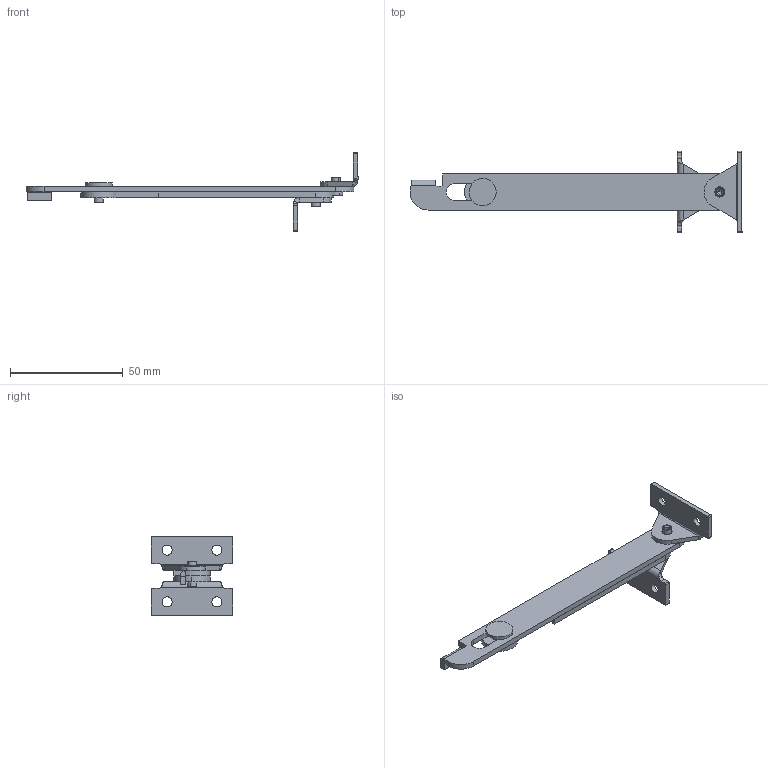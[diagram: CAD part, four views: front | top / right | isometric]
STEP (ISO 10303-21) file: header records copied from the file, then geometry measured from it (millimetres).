
FILE_DESCRIPTION (( 'STEP AP214' ), '1' );
FILE_NAME ('4.401.304.STEP', '2016-09-09T06:53:49', ( '' ), ( '' ), 'SwSTEP 2.0', 'SolidWorks 2015', '' );
FILE_SCHEMA (( 'AUTOMOTIVE_DESIGN' ));
Length unit declared in the file: millimetre
Products named in the file (6): 4.401.301.05_A; 4.401.301.04_A; 4.401.301.03_A; 4.401.301.02_303; 4.401.301.01_304; 4.401.304
Assembly tree (7 placements, depth 2):
  4.401.304
    4.401.301.01_304
    4.401.301.02_303
    4.401.301.03_A  x2
    4.401.301.04_A
    4.401.301.05_A  x2
Bounding box: 147.36 x 36.2 x 34.98 mm (x, y, z)
Volume: 12552.1 mm3; surface area: 13235.3 mm2
Topology: 7 solids, 7 shells, 138 faces, 328 edges, 206 vertices
Faces by surface type: cylinder 67, plane 54, bspline 9, cone 8
Entity records: 3066 total; most frequent: CARTESIAN_POINT 567, DIRECTION 496, ORIENTED_EDGE 448, EDGE_CURVE 224, AXIS2_PLACEMENT_3D 190, VERTEX_POINT 143, VECTOR 116, LINE 116
